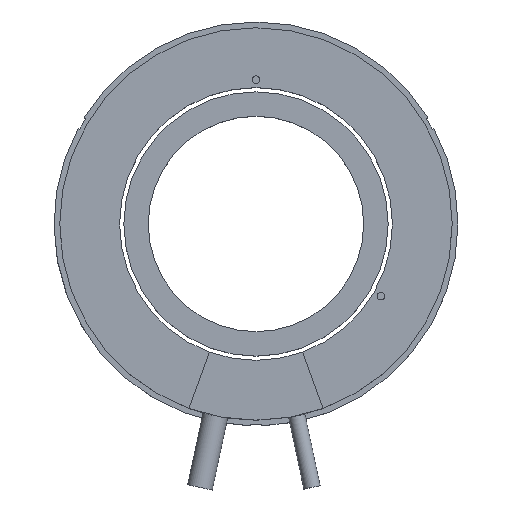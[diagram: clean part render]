
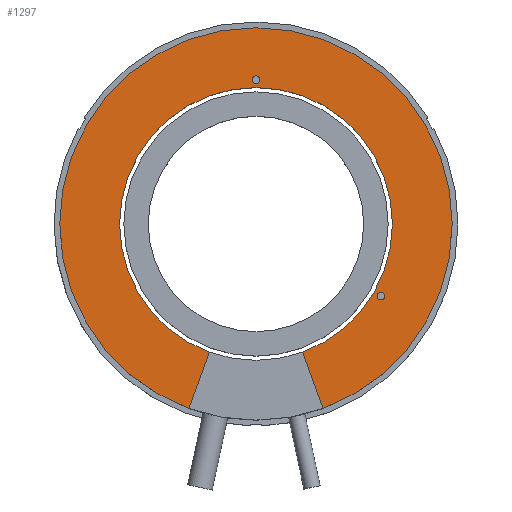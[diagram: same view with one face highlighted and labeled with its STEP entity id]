
A CAD part, top view. The second image highlights one B-rep face of the part: STEP entity #1297.
In plain terms, the highlighted planar face has unit normal (0, 0, 1).
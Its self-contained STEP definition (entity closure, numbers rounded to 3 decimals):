
#23 = EDGE_CURVE ( 'NONE', #297, #1122, #613, .T. ) ;
#29 = CARTESIAN_POINT ( 'NONE',  ( 0., 0., 17. ) ) ;
#60 = CIRCLE ( 'NONE', #256, 51. ) ;
#62 = AXIS2_PLACEMENT_3D ( 'NONE', #127, #1241, #810 ) ;
#64 = DIRECTION ( 'NONE',  ( 1., 0., 0. ) ) ;
#68 = CARTESIAN_POINT ( 'NONE',  ( 31.476, -18.75, 17. ) ) ;
#71 = EDGE_LOOP ( 'NONE', ( #1274, #1332 ) ) ;
#88 = VERTEX_POINT ( 'NONE', #68 ) ;
#127 = CARTESIAN_POINT ( 'NONE',  ( 32.476, -18.75, 17. ) ) ;
#151 = CARTESIAN_POINT ( 'NONE',  ( 12.125, -33.312, 17. ) ) ;
#195 = ORIENTED_EDGE ( 'NONE', *, *, #1353, .F. ) ;
#211 = AXIS2_PLACEMENT_3D ( 'NONE', #506, #1206, #875 ) ;
#216 = CARTESIAN_POINT ( 'NONE',  ( -35.45, 0., 17. ) ) ;
#242 = AXIS2_PLACEMENT_3D ( 'NONE', #1088, #641, #64 ) ;
#256 = AXIS2_PLACEMENT_3D ( 'NONE', #454, #1398, #553 ) ;
#258 = FACE_OUTER_BOUND ( 'NONE', #806, .T. ) ;
#261 = CARTESIAN_POINT ( 'NONE',  ( -12.125, -33.312, 17. ) ) ;
#276 = AXIS2_PLACEMENT_3D ( 'NONE', #1041, #322, #433 ) ;
#286 = EDGE_CURVE ( 'NONE', #927, #1122, #312, .T. ) ;
#297 = VERTEX_POINT ( 'NONE', #900 ) ;
#312 = CIRCLE ( 'NONE', #1381, 51. ) ;
#322 = DIRECTION ( 'NONE',  ( 0., 0., 1. ) ) ;
#368 = ORIENTED_EDGE ( 'NONE', *, *, #984, .T. ) ;
#385 = CARTESIAN_POINT ( 'NONE',  ( 35.45, 0., 17. ) ) ;
#405 = CIRCLE ( 'NONE', #211, 51. ) ;
#408 = CIRCLE ( 'NONE', #578, 1. ) ;
#422 = CARTESIAN_POINT ( 'NONE',  ( 35.45, 0., 17. ) ) ;
#430 = ORIENTED_EDGE ( 'NONE', *, *, #624, .F. ) ;
#433 = DIRECTION ( 'NONE',  ( 1., 0., 0. ) ) ;
#439 = ORIENTED_EDGE ( 'NONE', *, *, #1357, .T. ) ;
#450 = LINE ( 'NONE', #648, #813 ) ;
#454 = CARTESIAN_POINT ( 'NONE',  ( 0., 0., 17. ) ) ;
#467 = AXIS2_PLACEMENT_3D ( 'NONE', #385, #1419, #739 ) ;
#479 = VERTEX_POINT ( 'NONE', #828 ) ;
#492 = AXIS2_PLACEMENT_3D ( 'NONE', #818, #1275, #1364 ) ;
#497 = VERTEX_POINT ( 'NONE', #588 ) ;
#506 = CARTESIAN_POINT ( 'NONE',  ( 0., 0., 17. ) ) ;
#507 = CIRCLE ( 'NONE', #1354, 35.45 ) ;
#522 = ORIENTED_EDGE ( 'NONE', *, *, #1369, .F. ) ;
#524 = DIRECTION ( 'NONE',  ( 1., 0., 0. ) ) ;
#529 = AXIS2_PLACEMENT_3D ( 'NONE', #1097, #1441, #774 ) ;
#531 = DIRECTION ( 'NONE',  ( 0., 0., 1. ) ) ;
#539 = CARTESIAN_POINT ( 'NONE',  ( -17.443, -47.924, 17. ) ) ;
#553 = DIRECTION ( 'NONE',  ( 1., 0., 0. ) ) ;
#555 = ORIENTED_EDGE ( 'NONE', *, *, #688, .F. ) ;
#563 = CARTESIAN_POINT ( 'NONE',  ( 1., 37.5, 17. ) ) ;
#578 = AXIS2_PLACEMENT_3D ( 'NONE', #755, #531, #524 ) ;
#588 = CARTESIAN_POINT ( 'NONE',  ( 17.443, -47.924, 17. ) ) ;
#613 = LINE ( 'NONE', #261, #1021 ) ;
#624 = EDGE_CURVE ( 'NONE', #1347, #1039, #507, .T. ) ;
#641 = DIRECTION ( 'NONE',  ( 0., 0., 1. ) ) ;
#648 = CARTESIAN_POINT ( 'NONE',  ( 12.125, -33.312, 17. ) ) ;
#688 = EDGE_CURVE ( 'NONE', #497, #1295, #450, .T. ) ;
#724 = FACE_BOUND ( 'NONE', #71, .T. ) ;
#733 = CIRCLE ( 'NONE', #242, 35.45 ) ;
#739 = DIRECTION ( 'NONE',  ( 1., 0., 0. ) ) ;
#755 = CARTESIAN_POINT ( 'NONE',  ( 0., 37.5, 17. ) ) ;
#762 = EDGE_CURVE ( 'NONE', #1039, #297, #906, .T. ) ;
#774 = DIRECTION ( 'NONE',  ( 1., 0., 0. ) ) ;
#781 = EDGE_CURVE ( 'NONE', #841, #936, #1315, .T. ) ;
#782 = ORIENTED_EDGE ( 'NONE', *, *, #762, .F. ) ;
#787 = DIRECTION ( 'NONE',  ( 1., 0., 0. ) ) ;
#798 = DIRECTION ( 'NONE',  ( -0.342, 0.94, 0. ) ) ;
#806 = EDGE_LOOP ( 'NONE', ( #555, #439, #368, #1183, #1112, #782, #430, #522 ) ) ;
#810 = DIRECTION ( 'NONE',  ( 1., 0., 0. ) ) ;
#813 = VECTOR ( 'NONE', #798, 1000. ) ;
#818 = CARTESIAN_POINT ( 'NONE',  ( 0., 37.5, 17. ) ) ;
#828 = CARTESIAN_POINT ( 'NONE',  ( 51., 0., 17. ) ) ;
#841 = VERTEX_POINT ( 'NONE', #1418 ) ;
#875 = DIRECTION ( 'NONE',  ( 1., 0., 0. ) ) ;
#900 = CARTESIAN_POINT ( 'NONE',  ( -12.125, -33.312, 17. ) ) ;
#906 = CIRCLE ( 'NONE', #276, 35.45 ) ;
#922 = CARTESIAN_POINT ( 'NONE',  ( 33.476, -18.75, 17. ) ) ;
#927 = VERTEX_POINT ( 'NONE', #1151 ) ;
#936 = VERTEX_POINT ( 'NONE', #563 ) ;
#983 = CIRCLE ( 'NONE', #62, 1. ) ;
#984 = EDGE_CURVE ( 'NONE', #479, #927, #60, .T. ) ;
#1021 = VECTOR ( 'NONE', #1408, 1000. ) ;
#1039 = VERTEX_POINT ( 'NONE', #216 ) ;
#1041 = CARTESIAN_POINT ( 'NONE',  ( 0., 0., 17. ) ) ;
#1074 = FACE_BOUND ( 'NONE', #1152, .T. ) ;
#1084 = DIRECTION ( 'NONE',  ( 0., 0., 1. ) ) ;
#1088 = CARTESIAN_POINT ( 'NONE',  ( 0., 0., 17. ) ) ;
#1095 = ORIENTED_EDGE ( 'NONE', *, *, #1211, .F. ) ;
#1097 = CARTESIAN_POINT ( 'NONE',  ( 32.476, -18.75, 17. ) ) ;
#1108 = DIRECTION ( 'NONE',  ( 1., 0., 0. ) ) ;
#1112 = ORIENTED_EDGE ( 'NONE', *, *, #23, .F. ) ;
#1122 = VERTEX_POINT ( 'NONE', #539 ) ;
#1151 = CARTESIAN_POINT ( 'NONE',  ( -51., 0., 17. ) ) ;
#1152 = EDGE_LOOP ( 'NONE', ( #1095, #195 ) ) ;
#1153 = VERTEX_POINT ( 'NONE', #922 ) ;
#1183 = ORIENTED_EDGE ( 'NONE', *, *, #286, .T. ) ;
#1194 = CARTESIAN_POINT ( 'NONE',  ( 0., 0., 17. ) ) ;
#1206 = DIRECTION ( 'NONE',  ( 0., 0., 1. ) ) ;
#1211 = EDGE_CURVE ( 'NONE', #1153, #88, #983, .T. ) ;
#1228 = DIRECTION ( 'NONE',  ( 0., 0., 1. ) ) ;
#1241 = DIRECTION ( 'NONE',  ( 0., 0., 1. ) ) ;
#1254 = CIRCLE ( 'NONE', #529, 1. ) ;
#1274 = ORIENTED_EDGE ( 'NONE', *, *, #1466, .F. ) ;
#1275 = DIRECTION ( 'NONE',  ( 0., 0., 1. ) ) ;
#1295 = VERTEX_POINT ( 'NONE', #151 ) ;
#1297 = ADVANCED_FACE ( 'NONE', ( #724, #1074, #258 ), #1304, .T. ) ;
#1304 = PLANE ( 'NONE',  #467 ) ;
#1315 = CIRCLE ( 'NONE', #492, 1. ) ;
#1332 = ORIENTED_EDGE ( 'NONE', *, *, #781, .F. ) ;
#1347 = VERTEX_POINT ( 'NONE', #422 ) ;
#1353 = EDGE_CURVE ( 'NONE', #88, #1153, #1254, .T. ) ;
#1354 = AXIS2_PLACEMENT_3D ( 'NONE', #1194, #1084, #1108 ) ;
#1357 = EDGE_CURVE ( 'NONE', #497, #479, #405, .T. ) ;
#1364 = DIRECTION ( 'NONE',  ( 1., 0., 0. ) ) ;
#1369 = EDGE_CURVE ( 'NONE', #1295, #1347, #733, .T. ) ;
#1381 = AXIS2_PLACEMENT_3D ( 'NONE', #29, #1228, #787 ) ;
#1398 = DIRECTION ( 'NONE',  ( 0., 0., 1. ) ) ;
#1408 = DIRECTION ( 'NONE',  ( -0.342, -0.94, 0. ) ) ;
#1418 = CARTESIAN_POINT ( 'NONE',  ( -1., 37.5, 17. ) ) ;
#1419 = DIRECTION ( 'NONE',  ( 0., 0., 1. ) ) ;
#1441 = DIRECTION ( 'NONE',  ( 0., 0., 1. ) ) ;
#1466 = EDGE_CURVE ( 'NONE', #936, #841, #408, .T. ) ;
